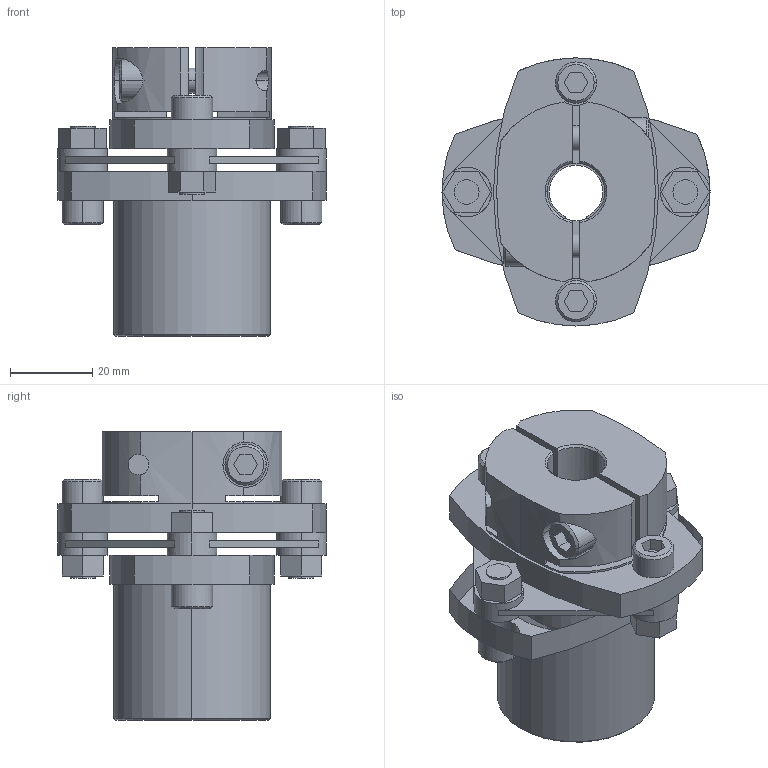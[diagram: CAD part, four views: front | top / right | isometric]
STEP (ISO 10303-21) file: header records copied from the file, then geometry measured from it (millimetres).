
FILE_DESCRIPTION((''),'2;1');
FILE_NAME('LCS-65M-16L亊14B.stp','2011-08-20T15:56:36',(''),(''),'AutoCAD STEP 2000i','AutoCAD 2000i',', , ');
FILE_SCHEMA(('CONFIG_CONTROL_DESIGN'));
Length unit declared in the file: millimetre
Products named in the file (7): LCS-65M-16L×14B; 忣兜1; LC65M-L016; LC65M-L011; LC65-B014-1; LC65-B014; LCS65-ITA
Assembly tree (6 placements, depth 2):
  LCS-65M-16L×14B
    忣兜1
    LC65M-L016
    LC65M-L011
    LC65-B014-1
    LC65-B014
    LCS65-ITA
Bounding box: 65 x 65 x 70 mm (x, y, z)
Volume: 83803.7 mm3; surface area: 29617 mm2
Topology: 1 solids, 1 shells, 222 faces, 582 edges, 380 vertices
Faces by surface type: plane 115, cylinder 84, cone 23
Entity records: 7375 total; most frequent: CARTESIAN_POINT 1531, DIRECTION 1242, ORIENTED_EDGE 1164, EDGE_CURVE 582, AXIS2_PLACEMENT_3D 453, VERTEX_POINT 380, VECTOR 336, LINE 336
